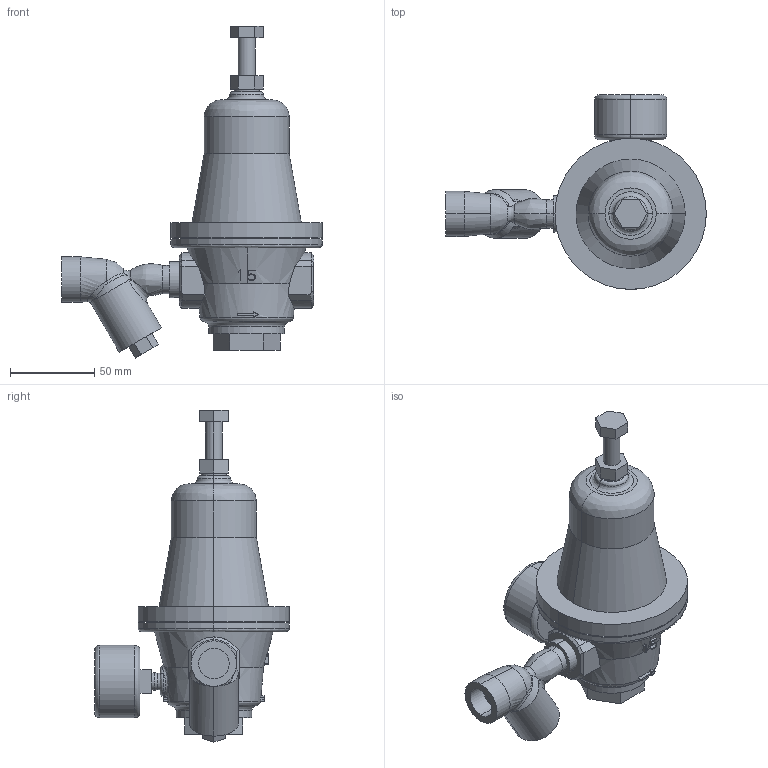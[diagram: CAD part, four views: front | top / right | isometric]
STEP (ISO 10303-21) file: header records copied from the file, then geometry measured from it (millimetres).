
FILE_DESCRIPTION( (''), '2;1');
FILE_NAME ('PC1056.10872.GD-24GS 15A_26513.stp','2024-09-12T14:27:32',(''),(''),'spGate 19.8.4 (****-****-****-****)','','');
FILE_SCHEMA (('AUTOMOTIVE_DESIGN'));
Length unit declared in the file: millimetre
Products named in the file (4): Assembly; GD-24 15A; SY-24 15A; D40R1_8
Assembly tree (3 placements, depth 2):
  Assembly
    GD-24 15A
    SY-24 15A
    D40R1_8
Bounding box: 155 x 116 x 197.5 mm (x, y, z)
Volume: 524485.8 mm3; surface area: 64342.3 mm2
Topology: 3 solids, 3 shells, 241 faces, 565 edges, 352 vertices
Faces by surface type: plane 105, bspline 69, cylinder 67
Entity records: 14072 total; most frequent: CARTESIAN_POINT 4443, ORIENTED_EDGE 1130, DIRECTION 884, COLOUR_RGB 809, PRESENTATION_STYLE_ASSIGNMENT 809, STYLED_ITEM 809, EDGE_CURVE 565, DRAUGHTING_PRE_DEFINED_CURVE_FONT 565
